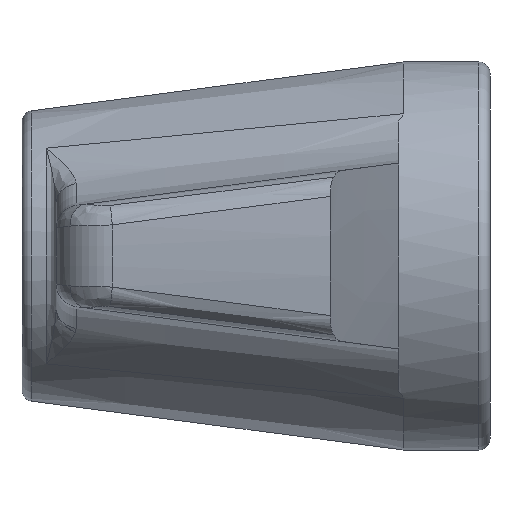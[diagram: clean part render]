
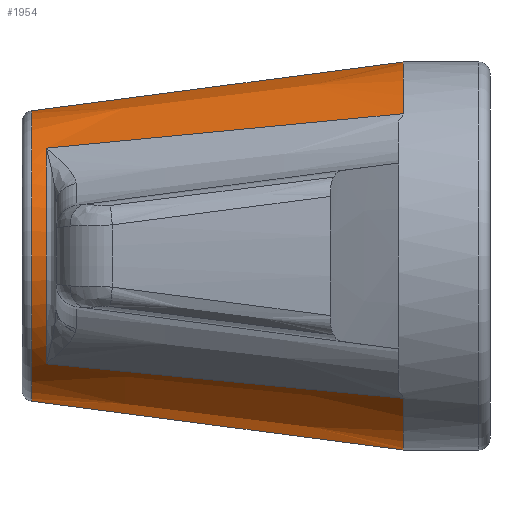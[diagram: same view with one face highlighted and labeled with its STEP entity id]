
A CAD part, left-side view. The second image highlights one B-rep face of the part: STEP entity #1954.
In plain terms, the highlighted conical face has half-angle 7.5 degrees and reference radius 6.5 mm.
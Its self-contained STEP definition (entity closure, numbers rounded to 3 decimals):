
#361 = CARTESIAN_POINT ( 'NONE',  ( 0., 3.808, 0. ) ) ;
#362 = CIRCLE ( 'NONE', #427, 8.5 ) ;
#363 = CARTESIAN_POINT ( 'NONE',  ( -5.779, 3.808, 6.233 ) ) ;
#364 = DIRECTION ( 'NONE',  ( 0.089, 0.991, -0.096 ) ) ;
#365 = VECTOR ( 'NONE', #364, 1000. ) ;
#366 = CARTESIAN_POINT ( 'NONE',  ( -4.419, 19., 4.767 ) ) ;
#367 = LINE ( 'NONE', #366, #365 ) ;
#385 = CARTESIAN_POINT ( 'NONE',  ( -4.38, 19.435, 4.725 ) ) ;
#386 = DIRECTION ( 'NONE',  ( 0., 0., -1. ) ) ;
#387 = DIRECTION ( 'NONE',  ( 0., 1., 0. ) ) ;
#388 = CARTESIAN_POINT ( 'NONE',  ( 0., 19.435, 0. ) ) ;
#389 = AXIS2_PLACEMENT_3D ( 'NONE', #388, #387, #386 ) ;
#390 = CIRCLE ( 'NONE', #389, 6.443 ) ;
#391 = CARTESIAN_POINT ( 'NONE',  ( -4.38, 19.435, -4.725 ) ) ;
#392 = DIRECTION ( 'NONE',  ( 0.089, 0.991, 0.096 ) ) ;
#393 = VECTOR ( 'NONE', #392, 1000. ) ;
#394 = CARTESIAN_POINT ( 'NONE',  ( -4.419, 19., -4.767 ) ) ;
#395 = LINE ( 'NONE', #394, #393 ) ;
#423 = CARTESIAN_POINT ( 'NONE',  ( -5.779, 3.808, -6.233 ) ) ;
#424 = CARTESIAN_POINT ( 'NONE',  ( 0., 3.808, 8.5 ) ) ;
#425 = DIRECTION ( 'NONE',  ( 0., 0., -1. ) ) ;
#426 = DIRECTION ( 'NONE',  ( 0., -1., 0. ) ) ;
#427 = AXIS2_PLACEMENT_3D ( 'NONE', #361, #426, #425 ) ;
#433 = FACE_OUTER_BOUND ( 'NONE', #1955, .T. ) ;
#437 = DIRECTION ( 'NONE',  ( 0., -0.991, 0.131 ) ) ;
#438 = VECTOR ( 'NONE', #437, 1000. ) ;
#439 = CARTESIAN_POINT ( 'NONE',  ( 0., 19., 6.5 ) ) ;
#440 = LINE ( 'NONE', #439, #438 ) ;
#452 = DIRECTION ( 'NONE',  ( 0., 0., 1. ) ) ;
#453 = DIRECTION ( 'NONE',  ( 0., -1., 0. ) ) ;
#454 = AXIS2_PLACEMENT_3D ( 'NONE', #456, #453, #452 ) ;
#455 = CONICAL_SURFACE ( 'NONE', #454, 6.5, 0.131 ) ;
#456 = CARTESIAN_POINT ( 'NONE',  ( 0., 19., 0. ) ) ;
#472 = CARTESIAN_POINT ( 'NONE',  ( 0., 20.065, -6.36 ) ) ;
#493 = DIRECTION ( 'NONE',  ( 0., 0., 1. ) ) ;
#494 = DIRECTION ( 'NONE',  ( 0., -1., 0. ) ) ;
#506 = DIRECTION ( 'NONE',  ( 0., 0., -1. ) ) ;
#507 = DIRECTION ( 'NONE',  ( 0., -1., 0. ) ) ;
#508 = CARTESIAN_POINT ( 'NONE',  ( 0., 3.808, 0. ) ) ;
#509 = AXIS2_PLACEMENT_3D ( 'NONE', #508, #507, #506 ) ;
#510 = CIRCLE ( 'NONE', #509, 8.5 ) ;
#536 = CARTESIAN_POINT ( 'NONE',  ( 0., 3.808, -8.5 ) ) ;
#539 = CARTESIAN_POINT ( 'NONE',  ( 0., 20.065, 6.36 ) ) ;
#560 = CARTESIAN_POINT ( 'NONE',  ( 0., 20.065, 0. ) ) ;
#561 = AXIS2_PLACEMENT_3D ( 'NONE', #560, #494, #493 ) ;
#562 = CIRCLE ( 'NONE', #561, 6.36 ) ;
#563 = LINE ( 'NONE', #604, #603 ) ;
#602 = DIRECTION ( 'NONE',  ( 0., -0.991, -0.131 ) ) ;
#603 = VECTOR ( 'NONE', #602, 1000. ) ;
#604 = CARTESIAN_POINT ( 'NONE',  ( 0., 19., -6.5 ) ) ;
#1924 = EDGE_CURVE ( 'NONE', #1996, #1979, #440, .T. ) ;
#1954 = ADVANCED_FACE ( 'NONE', ( #433 ), #455, .T. ) ;
#1955 = EDGE_LOOP ( 'NONE', ( #1956, #2000, #2003, #1968, #1971, #1974, #1977, #1980 ) ) ;
#1956 = ORIENTED_EDGE ( 'NONE', *, *, #1999, .T. ) ;
#1968 = ORIENTED_EDGE ( 'NONE', *, *, #1969, .T. ) ;
#1969 = EDGE_CURVE ( 'NONE', #1983, #1970, #395, .T. ) ;
#1970 = VERTEX_POINT ( 'NONE', #391 ) ;
#1971 = ORIENTED_EDGE ( 'NONE', *, *, #1972, .T. ) ;
#1972 = EDGE_CURVE ( 'NONE', #1970, #1973, #390, .T. ) ;
#1973 = VERTEX_POINT ( 'NONE', #385 ) ;
#1974 = ORIENTED_EDGE ( 'NONE', *, *, #1975, .F. ) ;
#1975 = EDGE_CURVE ( 'NONE', #1976, #1973, #367, .T. ) ;
#1976 = VERTEX_POINT ( 'NONE', #363 ) ;
#1977 = ORIENTED_EDGE ( 'NONE', *, *, #1978, .F. ) ;
#1978 = EDGE_CURVE ( 'NONE', #1979, #1976, #362, .T. ) ;
#1979 = VERTEX_POINT ( 'NONE', #424 ) ;
#1980 = ORIENTED_EDGE ( 'NONE', *, *, #1924, .F. ) ;
#1983 = VERTEX_POINT ( 'NONE', #423 ) ;
#1995 = VERTEX_POINT ( 'NONE', #472 ) ;
#1996 = VERTEX_POINT ( 'NONE', #539 ) ;
#1999 = EDGE_CURVE ( 'NONE', #1996, #1995, #562, .T. ) ;
#2000 = ORIENTED_EDGE ( 'NONE', *, *, #2001, .T. ) ;
#2001 = EDGE_CURVE ( 'NONE', #1995, #2002, #563, .T. ) ;
#2002 = VERTEX_POINT ( 'NONE', #536 ) ;
#2003 = ORIENTED_EDGE ( 'NONE', *, *, #2004, .F. ) ;
#2004 = EDGE_CURVE ( 'NONE', #1983, #2002, #510, .T. ) ;
